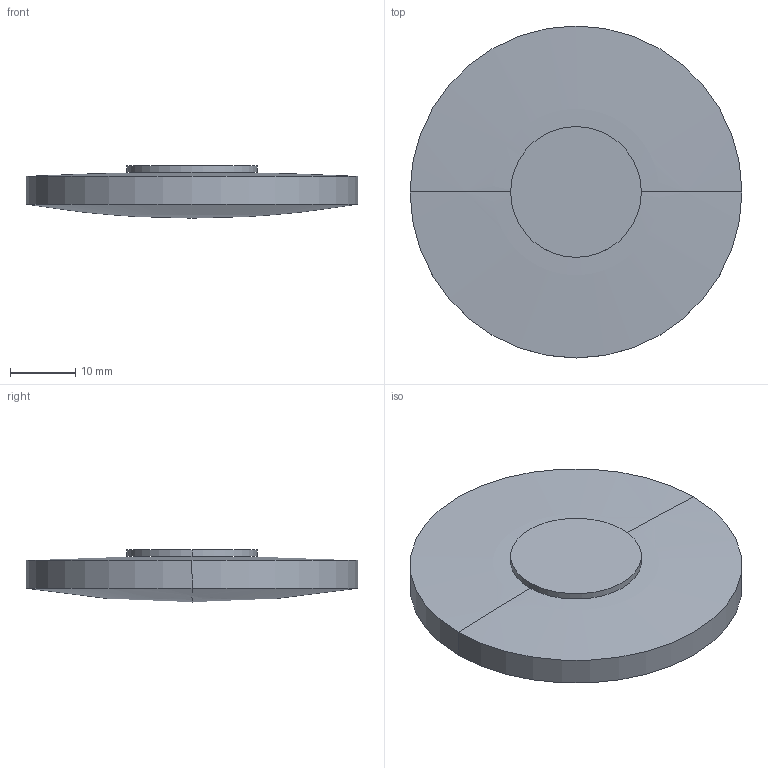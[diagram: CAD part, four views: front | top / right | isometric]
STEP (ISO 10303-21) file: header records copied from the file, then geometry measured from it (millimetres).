
FILE_DESCRIPTION(('STEP AP214'),'1');
FILE_NAME('LLF-51300.STEP','2020-03-09T17:41:31',(' '),(' '),'Spatial InterOp 3D',' ',' ');
FILE_SCHEMA(('AUTOMOTIVE_DESIGN { 1 0 10303 214 1 1 1 1 }'));
Length unit declared in the file: millimetre
Products named in the file (1): 1
Bounding box: 50.8 x 50.8 x 8 mm (x, y, z)
Volume: 11738.3 mm3; surface area: 5441.3 mm2
Topology: 2 solids, 2 shells, 10 faces, 20 edges, 10 vertices
Faces by surface type: sphere 4, cylinder 4, plane 2
Entity records: 255 total; most frequent: DIRECTION 52, CARTESIAN_POINT 38, ORIENTED_EDGE 32, AXIS2_PLACEMENT_3D 24, EDGE_CURVE 16, CIRCLE 12, ADVANCED_FACE 10, FACE_OUTER_BOUND 10
